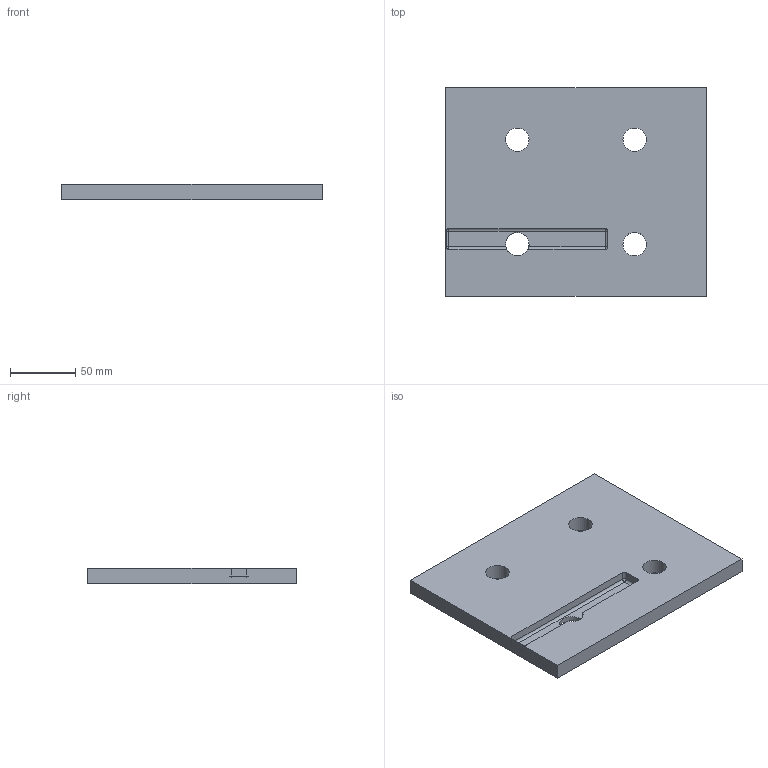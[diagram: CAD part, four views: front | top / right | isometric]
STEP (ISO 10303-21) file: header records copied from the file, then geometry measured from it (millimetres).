
FILE_DESCRIPTION(('Open CASCADE Model'),'2;1');
FILE_NAME('Open CASCADE Shape Model','2026-10-15T15:10:09',('Author'),( 'Open CASCADE'),'Open CASCADE STEP processor 8.0','Open CASCADE 8.0' ,'Unknown');
FILE_SCHEMA(('AUTOMOTIVE_DESIGN { 1 0 10303 214 1 1 1 1 }'));
Length unit declared in the file: millimetre
Products named in the file (1): J01_EXTREMO_200x160x12_P05_JUNTA_33 214
Bounding box: 200 x 160 x 12 mm (x, y, z)
Volume: 357736.1 mm3; surface area: 74885.9 mm2
Topology: 1 solids, 1 shells, 29 faces, 69 edges, 42 vertices
Faces by surface type: cylinder 13, plane 12, sphere 4
Full cylindrical faces by diameter (mm): 18 x4
Entity records: 1980 total; most frequent: CARTESIAN_POINT 571, DIRECTION 261, LINE 139, VECTOR 139, ORIENTED_EDGE 138, PCURVE 138, DEFINITIONAL_REPRESENTATION 138, EDGE_CURVE 69
